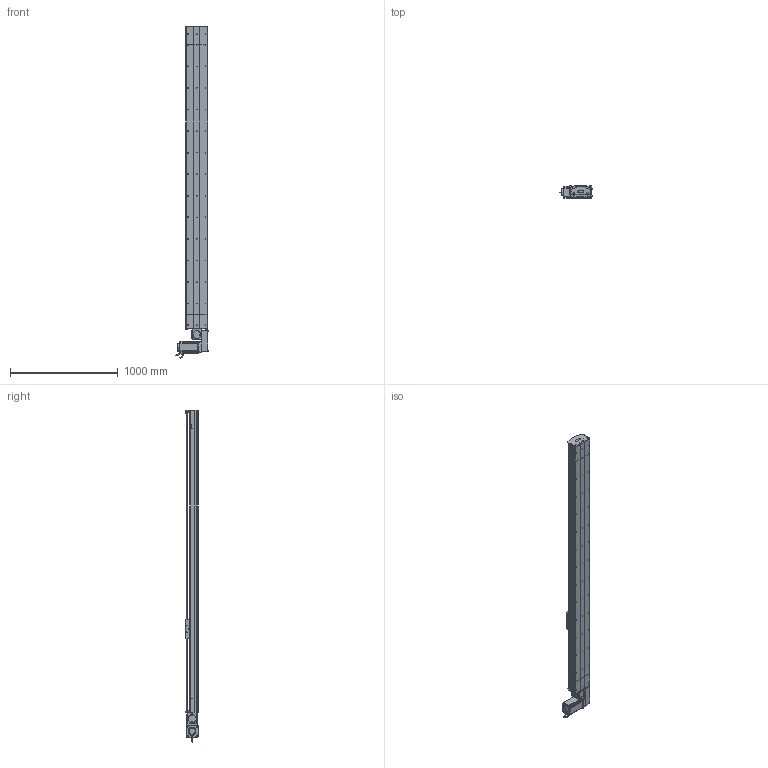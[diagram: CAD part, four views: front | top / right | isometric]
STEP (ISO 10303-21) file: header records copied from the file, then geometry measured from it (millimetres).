
FILE_DESCRIPTION (( 'STEP AP214' ), '1' );
FILE_NAME ('D20 TBH LH S2500.STEP', '2010-07-01T08:10:30', ( 'Conseil Régional Haute-Normandie' ), ( 'Conseil Régional Haute-Normandie' ), 'SwSTEP 2.0', 'SolidWorks 2010', '' );
FILE_SCHEMA (( 'AUTOMOTIVE_DESIGN' ));
Length unit declared in the file: millimetre
Products named in the file (40): rail + couroie  D20 S2500; vis M5 L5_Default; cache arbre D20_Default; couroie_Default; cache D20_Default; head LH_Default; Renvoi LH D20_Default; plaque de  bout head D20B LH_Default; poulie head D20_Default; couvercle head D20_Default; rail head D20; corpl head D20_Default; vis M5 L8 90°_Default; avant 110BLDC170A-630x; Moteur motionking 110BLDC170A-640x; vis M5 L70_Default; rail tail D20; tete d''axe poulie D20B; couvercle tail D20_Default; Couroie tail D20_Default; Conecteur2_Default; codeur 110BLDC170A-630x; corps 110BLDC170A-630x; corpl tail D20 +100_Default; tail D20+100_Default; vis M5 L25_Default; vis M5 L12_Default; Plaque racord D20LH_Default; vis M8 L12_Default; clavette; Conecteur_Default; poulie tail D20_Default; plaque de  bout tail D20_Default; couvercle D20 S2500_Default; corp D20 S2500_Default; Course B L2500_Default; D20 TBH LH S2500; guide D20B; Chariot D20B; chariot D20B_Default
Assembly tree (71 placements, depth 4):
  D20 TBH LH S2500
    chariot D20B_Default
      vis M5 L12_Default  x4
      Chariot D20B
      guide D20B  x2
    head LH_Default
      rail head D20
      vis M5 L70_Default  x4
      cache D20_Default  x2
      vis M8 L12_Default  x4
      vis M5 L12_Default  x10
      couroie_Default
      vis M5 L5_Default  x4
      plaque de  bout head D20B LH_Default
      cache arbre D20_Default
      couvercle head D20_Default
      Plaque racord D20LH_Default
      poulie head D20_Default
      Moteur motionking 110BLDC170A-640x
        avant 110BLDC170A-630x
        Conecteur_Default
        Conecteur2_Default
        corps 110BLDC170A-630x
        clavette
        codeur 110BLDC170A-630x
      Renvoi LH D20_Default
      vis M5 L25_Default  x2
      corpl head D20_Default
    tail D20+100_Default
      poulie tail D20_Default
      tete d''axe poulie D20B
      couvercle tail D20_Default
      vis M5 L25_Default  x2
      rail tail D20
      vis M5 L12_Default  x4
      Couroie tail D20_Default
      vis M5 L8 90°_Default  x2
      plaque de  bout tail D20_Default
      corpl tail D20 +100_Default
    Course B L2500_Default
      couvercle D20 S2500_Default
      corp D20 S2500_Default
      rail + couroie  D20 S2500
Bounding box: 304.2 x 115.7 x 3080 mm (x, y, z)
Volume: 23693704.8 mm3; surface area: 5786100.6 mm2
Topology: 95 solids, 95 shells, 2830 faces, 7236 edges, 4675 vertices
Faces by surface type: plane 1641, cylinder 865, bspline 136, cone 99, torus 89
Entity records: 90895 total; most frequent: CARTESIAN_POINT 29419, ORIENTED_EDGE 11128, DIRECTION 10463, EDGE_CURVE 5564, VERTEX_POINT 3661, VECTOR 3557, LINE 3557, AXIS2_PLACEMENT_3D 3453
